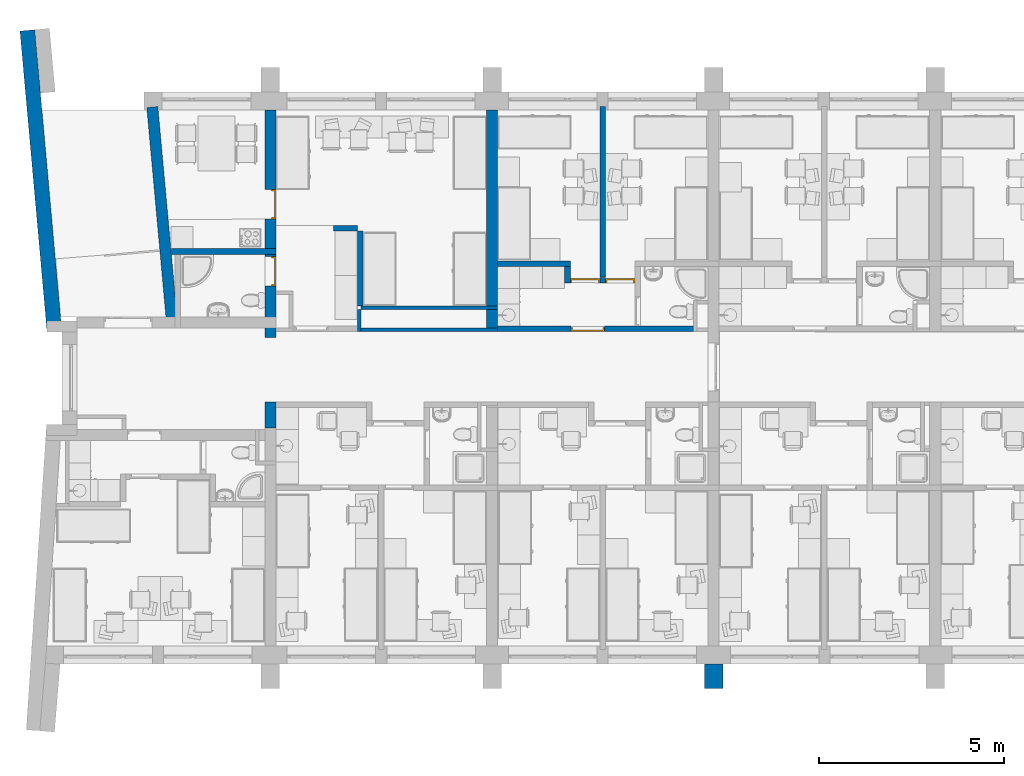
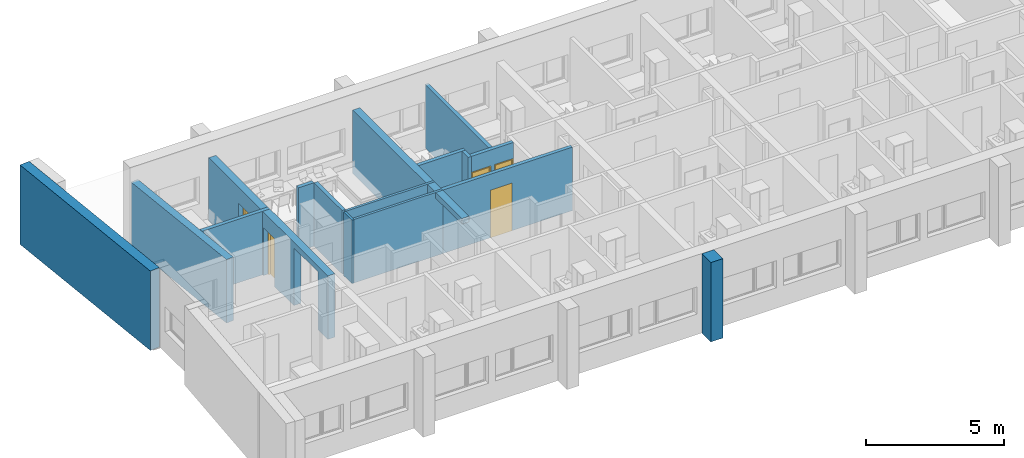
# One storey, part 5 of 152: 17 walls, 5 doors, 7 openings.
"""IFC2X3 building model written with IfcOpenShell, lengths in millimetres."""

from ifc_helpers import new_model, entity, si_unit, converted_unit, money_unit, direction, frame, origin_with_axes, place, context, subcontext, project, spatial, polyline, outline, extrude, faceted_brep, source, transform, mapped, material, material_list, layer, layer_set, layer_usage, type_object, element, fill, save


model = new_model("IFC2X3")

# Units and contexts
model_context = context("Model", 3, precision=1e-05, world=origin_with_axes(), true_north=direction((0.0, 1.0)))
body_context = subcontext(model_context, "Body", "Model", "MODEL_VIEW")
ifc_project = project(units=[si_unit("LENGTHUNIT", "METRE", prefix="MILLI"), si_unit("AREAUNIT", "SQUARE_METRE"), si_unit("VOLUMEUNIT", "CUBIC_METRE"), converted_unit("PLANEANGLEUNIT", "DEGREE", entity("IfcPlaneAngleMeasure", 0.0174532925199), si_unit("PLANEANGLEUNIT", "RADIAN"), dimensions=[0, 0, 0, 0, 0, 0, 0]), si_unit("SOLIDANGLEUNIT", "STERADIAN"), money_unit("USD"), converted_unit("TIMEUNIT", "Year", entity("IfcTimeMeasure", 31556926.0), si_unit("TIMEUNIT", "SECOND"), dimensions=[0, 0, 0, 0, 0, 0, 0]), si_unit("MASSUNIT", "GRAM"), si_unit("THERMODYNAMICTEMPERATUREUNIT", "DEGREE_CELSIUS"), si_unit("LUMINOUSINTENSITYUNIT", "LUMEN")], contexts=[model_context])

# Site, building, storey
site_placement = place(None, origin_with_axes())
site = spatial("IfcSite", under=ifc_project, at=site_placement, Name="Site", CompositionType="ELEMENT")
building_placement = place(site_placement, origin_with_axes())
building = spatial("IfcBuilding", under=site, at=building_placement, Name="Building", CompositionType="ELEMENT")
storey_placement = place(building_placement, frame((0.0, 0.0, 9500.0), z_axis=(0.0, 0.0, 1.0), x_axis=(1.0, 0.0, 0.0)))
storey = spatial("IfcBuildingStorey", under=building, at=storey_placement, Name="5KORRUS", CompositionType="ELEMENT", Elevation=9500.0)

# Walls
ifc_material_1 = material(Name="Olemasolevad seinad tellis, uus viimistlus")
ifc_layer_1 = layer(ifc_material_1, 400.0, ventilated="UNKNOWN")
ifc_layer_set_1 = layer_set([ifc_layer_1], Name="Olemasolevad seinad tellis, uus viimistlus 400")
ifc_layer_usage_1 = layer_usage(ifc_layer_set_1, "AXIS2", "POSITIVE", -400.0)
wall_type_1 = type_object("IfcWallType", Name="Olemasolevad seinad tellis, uus viimistlus 400", PredefinedType="NOTDEFINED")
wall_1_placement = place(storey_placement, frame((-54187.7234453, -11140.7868098, 0.0), z_axis=(0.0, 0.0, 1.0), x_axis=(-0.0895981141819, 0.995978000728, 0.0)))
element("IfcWallStandardCase", 1, at=wall_1_placement, inside=storey, type_object=wall_type_1, material=ifc_layer_usage_1, Name="VS1", ObjectType="VS1", context=body_context, shape_type="SweptSolid", body=[
    extrude(outline(polyline([(0.0, -400.0), (8177.32831985, -400.0), (8177.32831985, 0.0), (0.0, 0.0), (0.0, -400.0)])), origin_with_axes(), (0.0, 0.0, 1.0), 3500.0),
])
ifc_layer_2 = layer(ifc_material_1, 500.0, ventilated="UNKNOWN")
ifc_layer_set_2 = layer_set([ifc_layer_2], Name="Olemasolevad seinad tellis, uus viimistlus 500")
ifc_layer_usage_2 = layer_usage(ifc_layer_set_2, "AXIS2", "POSITIVE", -100.0)
wall_type_2 = type_object("IfcWallType", Name="Olemasolevad seinad tellis, uus viimistlus 500", PredefinedType="NOTDEFINED")
wall_2_placement = place(storey_placement, frame((-35990.2967033, -20796.6419407, 0.0), z_axis=(0.0, 0.0, 1.0), x_axis=(0.0, 1.0, 0.0)))
element("IfcWallStandardCase", 2, at=wall_2_placement, inside=storey, type_object=wall_type_2, material=ifc_layer_usage_2, Name="VS1", ObjectType="VS1", context=body_context, shape_type="SweptSolid", body=[
    extrude(outline(polyline([(0.0, -100.0), (657.402041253, -100.0), (657.402041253, 400.0), (0.0, 400.0), (0.0, -100.0)])), origin_with_axes(), (0.0, 0.0, 1.0), 3500.0),
])
ifc_material_2 = material(Name="UmbKipsplaat")
ifc_layer_3 = layer(ifc_material_2, 13.0, ventilated="UNKNOWN")
ifc_layer_4 = layer(ifc_material_2, 13.0, ventilated="UNKNOWN")
ifc_material_3 = material(Name="SOOJUSTUS MINERAALVILL")
ifc_layer_5 = layer(ifc_material_3, 98.0, ventilated="UNKNOWN")
ifc_layer_6 = layer(ifc_material_2, 13.0, ventilated="UNKNOWN")
ifc_layer_7 = layer(ifc_material_2, 13.0, ventilated="UNKNOWN")
ifc_layer_set_3 = layer_set([ifc_layer_3, ifc_layer_4, ifc_layer_5, ifc_layer_6, ifc_layer_7], Name="kipssein150")
ifc_layer_usage_3 = layer_usage(ifc_layer_set_3, "AXIS2", "POSITIVE", 0.0)
wall_type_3 = type_object("IfcWallType", Name="kipssein150 150", PredefinedType="NOTDEFINED")
wall_3_placement = place(storey_placement, frame((-50822.8272619, -9039.27319796, 0.0), z_axis=(0.0, 0.0, 1.0), x_axis=(1.0, 0.0, 0.0)))
element("IfcWallStandardCase", 3, at=wall_3_placement, inside=storey, type_object=wall_type_3, material=ifc_layer_usage_3, Name="SS1", ObjectType="SS1", context=body_context, shape_type="SweptSolid", body=[
    extrude(outline(polyline([(0.0, 0.0), (2832.53055858, 0.0), (2832.53055858, 150.0), (0.0, 150.0), (0.0, 0.0)])), origin_with_axes(), (0.0, 0.0, 1.0), 2800.0),
])

# Wall, opening, door
ifc_layer_usage_4 = layer_usage(ifc_layer_set_3, "AXIS2", "POSITIVE", 0.0)
wall_4_placement = place(storey_placement, frame((-41990.2967033, -11136.6041088, 0.0), z_axis=(0.0, 0.0, 1.0), x_axis=(1.0, 0.0, 0.0)))
wall_4 = element("IfcWallStandardCase", 4, at=wall_4_placement, inside=storey, type_object=wall_type_3, material=ifc_layer_usage_4, Name="SS1", ObjectType="SS1", context=body_context, shape_type="SweptSolid", body=[
    extrude(outline(polyline([(0.0, 0.0), (5400.28839536, 0.0), (5400.28839536, 150.0), (0.0, 150.0), (0.0, 0.0)])), origin_with_axes(), (0.0, 0.0, 1.0), 2800.0),
])
opening_1_placement = place(wall_4_placement, frame((2443.26478505, 0.0, 0.0), z_axis=(0.0, 0.0, 1.0), x_axis=(1.0, 0.0, 0.0)))
opening_1 = element("IfcOpeningElement", 5, at=opening_1_placement, cuts=wall_4, Name="SU2-6", context=body_context, shape_type="SweptSolid", body=[
    extrude(outline(polyline([(-450.0, -2100.0), (450.0, -2100.0), (450.0, 0.0), (-450.0, 0.0), (-450.0, -2100.0)])), frame((0.0, 150.0, 0.0), z_axis=(0.0, 1.0, 0.0), x_axis=(1.0, 0.0, 0.0)), (0.0, 0.0, -1.0), 450.0),
])
ifc_material_4 = material(Name="Background")
ifc_material_list = material_list([ifc_material_4])
door_style_1 = type_object("IfcDoorStyle", Name="Door 19", ConstructionType="NOTDEFINED", OperationType="SINGLE_SWING_LEFT", ParameterTakesPrecedence=False, Sizeable=False)
shared_shape_1 = source(origin_with_axes(), body_context, "Body", "Brep", [
    faceted_brep([(410.0, -40.0, 0.0), (410.0, -115.0, 0.0), (410.0, -115.0, 2060.0), (410.0, -40.0, 2060.0), (422.0, -40.0, 0.0), (422.0, 0.0, 0.0), (450.0, 0.0, 0.0), (450.0, -115.0, 0.0), (450.0, -115.0, 2060.0), (422.0, -40.0, 2060.0), (450.0, 0.0, 2060.0), (422.0, 0.0, 2060.0)], [[[0, 1, 2, 3]], [[4, 5, 6, 7, 1, 0]], [[2, 1, 7, 8]], [[9, 3, 2, 8, 10, 11]], [[9, 4, 0, 3]], [[11, 5, 4, 9]], [[11, 10, 6, 5]], [[7, 6, 10, 8]]]),
    faceted_brep([(-422.0, -40.0, 2060.0), (-422.0, 0.0, 2060.0), (-450.0, 0.0, 2060.0), (-450.0, -115.0, 2060.0), (-410.0, -115.0, 2060.0), (-410.0, -40.0, 2060.0), (-422.0, -40.0, 0.0), (-422.0, 0.0, 0.0), (-450.0, 0.0, 0.0), (-450.0, -115.0, 0.0), (-410.0, -115.0, 0.0), (-410.0, -40.0, 0.0)], [[[0, 1, 2, 3, 4, 5]], [[0, 6, 7, 1]], [[7, 8, 2, 1]], [[3, 2, 8, 9]], [[4, 3, 9, 10]], [[5, 4, 10, 11]], [[5, 11, 6, 0]], [[6, 11, 10, 9, 8, 7]]]),
    faceted_brep([(422.0, 0.0, 2072.0), (-422.0, 0.0, 2072.0), (-422.0, 0.0, 2060.0), (-450.0, 0.0, 2060.0), (-450.0, 0.0, 2100.0), (450.0, 0.0, 2100.0), (450.0, 0.0, 2060.0), (422.0, 0.0, 2060.0), (422.0, -40.0, 2072.0), (-422.0, -40.0, 2072.0), (-422.0, -40.0, 2060.0), (-410.0, -40.0, 2060.0), (-410.0, -115.0, 2060.0), (-450.0, -115.0, 2060.0), (-450.0, -115.0, 2100.0), (450.0, -115.0, 2100.0), (450.0, -115.0, 2060.0), (422.0, -40.0, 2060.0), (410.0, -115.0, 2060.0), (410.0, -40.0, 2060.0)], [[[0, 1, 2, 3, 4, 5, 6, 7]], [[0, 8, 9, 1]], [[1, 9, 10, 2]], [[10, 11, 12, 13, 3, 2]], [[14, 4, 3, 13]], [[15, 5, 4, 14]], [[16, 6, 5, 15]], [[17, 7, 6, 16, 18, 19]], [[7, 17, 8, 0]], [[10, 9, 8, 17, 19, 11]], [[19, 18, 12, 11]], [[13, 12, 18, 16, 15, 14]]]),
    faceted_brep([(-422.0, 0.0, 0.0), (422.0, 0.0, 0.0), (422.0, -40.0, 0.0), (-422.0, -40.0, 0.0), (-422.0, 0.0, 2072.0), (422.0, 0.0, 2072.0), (422.0, -40.0, 2072.0), (-422.0, -40.0, 2072.0)], [[[0, 1, 2, 3]], [[0, 4, 5, 1]], [[1, 5, 6, 2]], [[3, 2, 6, 7]], [[4, 0, 3, 7]], [[5, 4, 7, 6]]]),
])
door_1_placement = place(opening_1_placement, frame((450.0, 0.0, 0.0), z_axis=(0.0, 0.0, 1.0), x_axis=(-1.0, 0.0, 0.0)))
door_1 = element("IfcDoor", 6, at=door_1_placement, inside=storey, type_object=door_style_1, material=ifc_material_list, Name="SU2-6", ObjectType="Korteri välisuks", OverallHeight=2100.0, OverallWidth=900.0, context=body_context, shape_type="MappedRepresentation", body=[
    mapped(shared_shape_1, transform((450.0, 0.0, 0.0))),
])
fill(opening_1, door_1)

# Wall
ifc_layer_usage_5 = layer_usage(ifc_layer_set_3, "AXIS2", "POSITIVE", -150.0)
wall_5_placement = place(storey_placement, frame((-40022.0319183, -9366.37850445, 0.0), z_axis=(0.0, 0.0, 1.0), x_axis=(0.0, -1.0, 0.0)))
element("IfcWallStandardCase", 7, at=wall_5_placement, inside=storey, type_object=wall_type_3, material=ifc_layer_usage_5, Name="SS1", ObjectType="SS1", context=body_context, shape_type="SweptSolid", body=[
    extrude(outline(polyline([(0.0, -150.0), (449.515634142, -150.0), (449.515634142, 0.0), (0.0, 0.0), (0.0, -150.0)])), origin_with_axes(), (0.0, 0.0, 1.0), 2800.0),
])

# Wall, openings, doors
ifc_layer_usage_6 = layer_usage(ifc_layer_set_3, "AXIS2", "POSITIVE", 0.0)
wall_6_placement = place(storey_placement, frame((-40022.0319183, -9815.89413859, 0.0), z_axis=(0.0, 0.0, 1.0), x_axis=(1.0, 0.0, 0.0)))
wall_6 = element("IfcWallStandardCase", 8, at=wall_6_placement, inside=storey, type_object=wall_type_3, material=ifc_layer_usage_6, Name="SS1", ObjectType="SS1", context=body_context, shape_type="SweptSolid", body=[
    extrude(outline(polyline([(0.0, 0.0), (1750.44681959, 0.0), (1750.44681959, 150.0), (0.0, 150.0), (0.0, 0.0)])), origin_with_axes(), (0.0, 0.0, 1.0), 2800.0),
])
opening_2_placement = place(wall_6_placement, frame((1350.45577623, 0.0, 0.0), z_axis=(0.0, 0.0, 1.0), x_axis=(1.0, 0.0, 0.0)))
opening_2 = element("IfcOpeningElement", 9, at=opening_2_placement, cuts=wall_6, Name="SU3-5", context=body_context, shape_type="SweptSolid", body=[
    extrude(outline(polyline([(-400.0, 0.0), (400.0, 0.0), (400.0, 2100.0), (-400.0, 2100.0), (-400.0, 0.0)])), frame((0.0, 150.0, 0.0), z_axis=(0.0, 1.0, 0.0), x_axis=(-1.0, 0.0, 0.0)), (0.0, 0.0, -1.0), 450.0),
])
opening_3_placement = place(wall_6_placement, frame((400.0, 0.0, 0.0), z_axis=(0.0, 0.0, 1.0), x_axis=(1.0, 0.0, 0.0)))
opening_3 = element("IfcOpeningElement", 10, at=opening_3_placement, cuts=wall_6, Name="SU3-4", context=body_context, shape_type="SweptSolid", body=[
    extrude(outline(polyline([(-400.0, 0.0), (400.0, 0.0), (400.0, 2100.0), (-400.0, 2100.0), (-400.0, 0.0)])), frame((0.0, 150.0, 0.0), z_axis=(0.0, -1.0, 0.0), x_axis=(1.0, 0.0, 0.0)), (0.0, 0.0, 1.0), 450.0),
])
door_style_2 = type_object("IfcDoorStyle", Name="Door 19", ConstructionType="NOTDEFINED", OperationType="SINGLE_SWING_LEFT", ParameterTakesPrecedence=False, Sizeable=False)
shared_shape_2 = source(origin_with_axes(), body_context, "Body", "Brep", [
    faceted_brep([(360.0, -75.0, 0.0), (360.0, -150.0, 0.0), (360.0, -150.0, 2060.0), (360.0, -75.0, 2060.0), (372.0, -75.0, 0.0), (372.0, -35.0, 0.0), (400.0, -35.0, 0.0), (400.0, -150.0, 0.0), (400.0, -150.0, 2060.0), (372.0, -75.0, 2060.0), (400.0, -35.0, 2060.0), (372.0, -35.0, 2060.0)], [[[0, 1, 2, 3]], [[4, 5, 6, 7, 1, 0]], [[2, 1, 7, 8]], [[9, 3, 2, 8, 10, 11]], [[9, 4, 0, 3]], [[11, 5, 4, 9]], [[11, 10, 6, 5]], [[7, 6, 10, 8]]]),
    faceted_brep([(-372.0, -75.0, 2060.0), (-372.0, -35.0, 2060.0), (-400.0, -35.0, 2060.0), (-400.0, -150.0, 2060.0), (-360.0, -150.0, 2060.0), (-360.0, -75.0, 2060.0), (-372.0, -75.0, 0.0), (-372.0, -35.0, 0.0), (-400.0, -35.0, 0.0), (-400.0, -150.0, 0.0), (-360.0, -150.0, 0.0), (-360.0, -75.0, 0.0)], [[[0, 1, 2, 3, 4, 5]], [[0, 6, 7, 1]], [[7, 8, 2, 1]], [[3, 2, 8, 9]], [[4, 3, 9, 10]], [[5, 4, 10, 11]], [[5, 11, 6, 0]], [[6, 11, 10, 9, 8, 7]]]),
    faceted_brep([(372.0, -35.0, 2072.0), (-372.0, -35.0, 2072.0), (-372.0, -35.0, 2060.0), (-400.0, -35.0, 2060.0), (-400.0, -35.0, 2100.0), (400.0, -35.0, 2100.0), (400.0, -35.0, 2060.0), (372.0, -35.0, 2060.0), (372.0, -75.0, 2072.0), (-372.0, -75.0, 2072.0), (-372.0, -75.0, 2060.0), (-360.0, -75.0, 2060.0), (-360.0, -150.0, 2060.0), (-400.0, -150.0, 2060.0), (-400.0, -150.0, 2100.0), (400.0, -150.0, 2100.0), (400.0, -150.0, 2060.0), (372.0, -75.0, 2060.0), (360.0, -150.0, 2060.0), (360.0, -75.0, 2060.0)], [[[0, 1, 2, 3, 4, 5, 6, 7]], [[0, 8, 9, 1]], [[1, 9, 10, 2]], [[10, 11, 12, 13, 3, 2]], [[14, 4, 3, 13]], [[15, 5, 4, 14]], [[16, 6, 5, 15]], [[17, 7, 6, 16, 18, 19]], [[7, 17, 8, 0]], [[10, 9, 8, 17, 19, 11]], [[19, 18, 12, 11]], [[13, 12, 18, 16, 15, 14]]]),
    faceted_brep([(-372.0, -35.0, 0.0), (372.0, -35.0, 0.0), (372.0, -75.0, 0.0), (-372.0, -75.0, 0.0), (-372.0, -35.0, 2072.0), (372.0, -35.0, 2072.0), (372.0, -75.0, 2072.0), (-372.0, -75.0, 2072.0)], [[[0, 1, 2, 3]], [[0, 4, 5, 1]], [[1, 5, 6, 2]], [[3, 2, 6, 7]], [[4, 0, 3, 7]], [[5, 4, 7, 6]]]),
])
door_2_placement = place(opening_2_placement, frame((-400.0, 0.0, 0.0), z_axis=(0.0, 0.0, 1.0), x_axis=(1.0, 0.0, 0.0)))
door_2 = element("IfcDoor", 11, at=door_2_placement, inside=storey, type_object=door_style_2, material=ifc_material_list, Name="SU3-5", ObjectType="Toa uks", OverallHeight=2100.0, OverallWidth=800.0, context=body_context, shape_type="MappedRepresentation", body=[
    mapped(shared_shape_2, transform((400.0, 150.0, 0.0))),
])
fill(opening_2, door_2)
door_style_3 = type_object("IfcDoorStyle", Name="Door 19", ConstructionType="NOTDEFINED", OperationType="SINGLE_SWING_RIGHT", ParameterTakesPrecedence=False, Sizeable=False)
shared_shape_3 = source(origin_with_axes(), body_context, "Body", "Brep", [
    faceted_brep([(-360.0, -75.0, 0.0), (-360.0, -75.0, 2060.0), (-360.0, -150.0, 2060.0), (-360.0, -150.0, 0.0), (-372.0, -75.0, 2060.0), (-372.0, -75.0, 0.0), (-372.0, -35.0, 2060.0), (-400.0, -35.0, 2060.0), (-400.0, -150.0, 2060.0), (-400.0, -150.0, 0.0), (-400.0, -35.0, 0.0), (-372.0, -35.0, 0.0)], [[[0, 1, 2, 3]], [[4, 1, 0, 5]], [[4, 6, 7, 8, 2, 1]], [[2, 8, 9, 3]], [[5, 0, 3, 9, 10, 11]], [[6, 4, 5, 11]], [[6, 11, 10, 7]], [[9, 8, 7, 10]]]),
    faceted_brep([(372.0, -75.0, 2060.0), (360.0, -75.0, 2060.0), (360.0, -150.0, 2060.0), (400.0, -150.0, 2060.0), (400.0, -35.0, 2060.0), (372.0, -35.0, 2060.0), (372.0, -75.0, 0.0), (360.0, -75.0, 0.0), (360.0, -150.0, 0.0), (400.0, -150.0, 0.0), (400.0, -35.0, 0.0), (372.0, -35.0, 0.0)], [[[0, 1, 2, 3, 4, 5]], [[1, 0, 6, 7]], [[1, 7, 8, 2]], [[2, 8, 9, 3]], [[3, 9, 10, 4]], [[11, 5, 4, 10]], [[0, 5, 11, 6]], [[6, 11, 10, 9, 8, 7]]]),
    faceted_brep([(-372.0, -35.0, 2072.0), (-372.0, -35.0, 2060.0), (-400.0, -35.0, 2060.0), (-400.0, -35.0, 2100.0), (400.0, -35.0, 2100.0), (400.0, -35.0, 2060.0), (372.0, -35.0, 2060.0), (372.0, -35.0, 2072.0), (-372.0, -75.0, 2072.0), (-372.0, -75.0, 2060.0), (-360.0, -75.0, 2060.0), (-360.0, -150.0, 2060.0), (-400.0, -150.0, 2060.0), (-400.0, -150.0, 2100.0), (400.0, -150.0, 2100.0), (400.0, -150.0, 2060.0), (372.0, -75.0, 2060.0), (360.0, -150.0, 2060.0), (360.0, -75.0, 2060.0), (372.0, -75.0, 2072.0)], [[[0, 1, 2, 3, 4, 5, 6, 7]], [[1, 0, 8, 9]], [[9, 10, 11, 12, 2, 1]], [[12, 13, 3, 2]], [[13, 14, 4, 3]], [[14, 15, 5, 4]], [[16, 6, 5, 15, 17, 18]], [[7, 6, 16, 19]], [[0, 7, 19, 8]], [[16, 18, 10, 9, 8, 19]], [[10, 18, 17, 11]], [[15, 14, 13, 12, 11, 17]]]),
    faceted_brep([(372.0, -35.0, 0.0), (372.0, -75.0, 0.0), (-372.0, -75.0, 0.0), (-372.0, -35.0, 0.0), (372.0, -35.0, 2072.0), (372.0, -75.0, 2072.0), (-372.0, -75.0, 2072.0), (-372.0, -35.0, 2072.0)], [[[0, 1, 2, 3]], [[4, 5, 1, 0]], [[1, 5, 6, 2]], [[3, 2, 6, 7]], [[0, 3, 7, 4]], [[7, 6, 5, 4]]]),
])
door_3_placement = place(opening_3_placement, frame((-400.0, 0.0, 0.0), z_axis=(0.0, 0.0, 1.0), x_axis=(1.0, 0.0, 0.0)))
door_3 = element("IfcDoor", 12, at=door_3_placement, inside=storey, type_object=door_style_3, material=ifc_material_list, Name="SU3-4", ObjectType="Toa uks", OverallHeight=2100.0, OverallWidth=800.0, context=body_context, shape_type="MappedRepresentation", body=[
    mapped(shared_shape_3, transform((400.0, 150.0, 0.0))),
])
fill(opening_3, door_3)

# Walls
ifc_layer_usage_7 = layer_usage(ifc_layer_set_3, "AXIS2", "POSITIVE", 0.0)
wall_7_placement = place(storey_placement, frame((-45784.1327748, -8409.87086674, 0.0), z_axis=(0.0, 0.0, 1.0), x_axis=(0.0, -1.0, 0.0)))
element("IfcWallStandardCase", 13, at=wall_7_placement, inside=storey, type_object=wall_type_3, material=ifc_layer_usage_7, Name="SS1", ObjectType="SS1", context=body_context, shape_type="SweptSolid", body=[
    extrude(outline(polyline([(0.0, 0.0), (2026.91357851, 0.0), (2026.91357851, 150.0), (0.0, 150.0), (0.0, 0.0)])), origin_with_axes(), (0.0, 0.0, 1.0), 2800.0),
])
ifc_layer_usage_8 = layer_usage(ifc_layer_set_3, "AXIS2", "POSITIVE", 0.0)
wall_8_placement = place(storey_placement, frame((-46433.9824806, -8409.87086674, 0.0), z_axis=(0.0, 0.0, 1.0), x_axis=(1.0, 0.0, 0.0)))
element("IfcWallStandardCase", 14, at=wall_8_placement, inside=storey, type_object=wall_type_3, material=ifc_layer_usage_8, Name="SS1", ObjectType="SS1", context=body_context, shape_type="SweptSolid", body=[
    extrude(outline(polyline([(0.0, 0.0), (649.849705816, 0.0), (649.849705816, 150.0), (0.0, 150.0), (0.0, 0.0)])), origin_with_axes(), (0.0, 0.0, 1.0), 2800.0),
])
ifc_layer_usage_9 = layer_usage(ifc_layer_set_3, "AXIS2", "POSITIVE", -150.0)
wall_9_placement = place(storey_placement, frame((-40022.0319183, -9366.37850445, 0.0), z_axis=(0.0, 0.0, 1.0), x_axis=(-1.0, 0.0, 0.0)))
element("IfcWallStandardCase", 15, at=wall_9_placement, inside=storey, type_object=wall_type_3, material=ifc_layer_usage_9, Name="SS1", ObjectType="SS1", context=body_context, shape_type="SweptSolid", body=[
    extrude(outline(polyline([(0.0, -150.0), (1968.26478505, -150.0), (1968.26478505, 0.0), (0.0, 0.0), (0.0, -150.0)])), origin_with_axes(), (0.0, 0.0, 1.0), 2800.0),
])
ifc_layer_usage_10 = layer_usage(ifc_layer_set_3, "AXIS2", "POSITIVE", 0.0)
wall_10_placement = place(storey_placement, frame((-39222.0319183, -5039.6041088, 0.0), z_axis=(0.0, 0.0, 1.0), x_axis=(0.0, -1.0, 0.0)))
element("IfcWallStandardCase", 16, at=wall_10_placement, inside=storey, type_object=wall_type_3, material=ifc_layer_usage_10, Name="SS1", ObjectType="SS1", context=body_context, shape_type="SweptSolid", body=[
    extrude(outline(polyline([(0.0, 0.0), (4617.29002979, 0.0), (4617.29002979, 150.0), (0.0, 150.0), (0.0, 0.0)])), origin_with_axes(), (0.0, 0.0, 1.0), 2800.0),
])

# Wall, opening
ifc_material_5 = material(Name="Olemasolevad seinad tellis, uus viimistlus")
ifc_layer_8 = layer(ifc_material_5, 300.0, ventilated="UNKNOWN")
ifc_layer_set_4 = layer_set([ifc_layer_8], Name="Olemasolevad seinad tellis, uus viimistlus  300")
ifc_layer_usage_11 = layer_usage(ifc_layer_set_4, "AXIS2", "POSITIVE", 0.0)
wall_type_4 = type_object("IfcWallType", Name="Olemasolevad seinad tellis, uus viimistlus  300", PredefinedType="NOTDEFINED")
wall_11_placement = place(storey_placement, frame((-41990.2967033, -13039.3705726, 0.0), z_axis=(0.0, 0.0, 1.0), x_axis=(0.0, 1.0, 0.0)))
wall_11 = element("IfcWallStandardCase", 17, at=wall_11_placement, inside=storey, type_object=wall_type_4, material=ifc_layer_usage_11, Name="KS1", ObjectType="KS1", context=body_context, shape_type="SweptSolid", body=[
    extrude(outline(polyline([(0.0, 0.0), (7899.7664638, 0.0), (7899.7664638, 300.0), (0.0, 300.0), (0.0, 0.0)])), origin_with_axes(), (0.0, 0.0, 1.0), 2800.0),
])
opening_4_placement = place(wall_11_placement, frame((943.048909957, 0.0, 0.0), z_axis=(0.0, 0.0, 1.0), x_axis=(1.0, 0.0, 0.0)))
element("IfcOpeningElement", 18, at=opening_4_placement, cuts=wall_11, Name="DOO - 001", context=body_context, shape_type="SweptSolid", body=[
    extrude(outline(polyline([(-959.718, 2550.0), (-959.718, 0.0), (959.718, 0.0), (959.718, 2550.0), (-959.718, 2550.0)])), frame((0.0, 0.0, 0.0), z_axis=(0.0, -1.0, 0.0), x_axis=(1.0, 0.0, 0.0)), (0.0, 0.0, 1.0), 300.0),
    extrude(outline(polyline([(-959.718, 0.0), (-959.718, -2550.0), (959.718, -2550.0), (959.718, 0.0), (-959.718, 0.0)])), frame((0.0, 0.0, 0.0), z_axis=(0.0, 1.0, 0.0), x_axis=(1.0, 0.0, 0.0)), (0.0, 0.0, 1.0), 300.0),
])

# Wall
ifc_layer_usage_12 = layer_usage(ifc_layer_set_4, "AXIS2", "POSITIVE", -300.0)
wall_12_placement = place(storey_placement, frame((-51188.5055148, -5039.6041088, 0.0), z_axis=(0.0, 0.0, 1.0), x_axis=(0.0910473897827, -0.995846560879, 0.0)))
element("IfcWallStandardCase", 19, at=wall_12_placement, inside=storey, type_object=wall_type_4, material=ifc_layer_usage_12, Name="KS1", ObjectType="KS1", context=body_context, shape_type="SweptSolid", body=[
    extrude(outline(polyline([(0.0, -300.0), (5982.8981657, -300.0), (5982.8981657, 0.0), (0.0, 0.0), (0.0, -300.0)])), origin_with_axes(), (0.0, 0.0, 1.0), 2800.0),
])

# Wall, openings, doors
ifc_layer_usage_13 = layer_usage(ifc_layer_set_4, "AXIS2", "POSITIVE", 0.0)
wall_13_placement = place(storey_placement, frame((-47990.2967033, -13739.2398994, 0.0), z_axis=(0.0, 0.0, 1.0), x_axis=(0.0, 1.0, 0.0)))
wall_13 = element("IfcWallStandardCase", 20, at=wall_13_placement, inside=storey, type_object=wall_type_4, material=ifc_layer_usage_13, Name="KS1", ObjectType="KS1", context=body_context, shape_type="SweptSolid", body=[
    extrude(outline(polyline([(0.0, 0.0), (8599.63579061, 0.0), (8599.63579061, 300.0), (0.0, 300.0), (0.0, 0.0)])), origin_with_axes(), (0.0, 0.0, 1.0), 2800.0),
])
opening_5_placement = place(wall_13_placement, frame((1576.13579061, 0.0, 0.0), z_axis=(0.0, 0.0, 1.0), x_axis=(1.0, 0.0, 0.0)))
element("IfcOpeningElement", 21, at=opening_5_placement, cuts=wall_13, Name="DOO - 001", context=body_context, shape_type="SweptSolid", body=[
    extrude(outline(polyline([(-876.5, 0.0), (-876.5, -2550.0), (876.5, -2550.0), (876.5, 0.0), (-876.5, 0.0)])), frame((0.0, 300.0, 0.0), z_axis=(0.0, 1.0, 0.0), x_axis=(1.0, 0.0, 0.0)), (0.0, 0.0, 1.0), 300.0),
    extrude(outline(polyline([(-876.5, 2550.0), (-876.5, 0.0), (876.5, 0.0), (876.5, 2550.0), (-876.5, 2550.0)])), frame((0.0, 300.0, 0.0), z_axis=(0.0, -1.0, 0.0), x_axis=(1.0, 0.0, 0.0)), (0.0, 0.0, 1.0), 300.0),
])
opening_6_placement = place(wall_13_placement, frame((4239.50270273, 0.0, 0.0), z_axis=(0.0, 0.0, 1.0), x_axis=(1.0, 0.0, 0.0)))
opening_6 = element("IfcOpeningElement", 22, at=opening_6_placement, cuts=wall_13, Name="SU3-3", context=body_context, shape_type="SweptSolid", body=[
    extrude(outline(polyline([(-400.0, -2100.0), (400.0, -2100.0), (400.0, 0.0), (-400.0, 0.0), (-400.0, -2100.0)])), frame((0.0, 300.0, 0.0), z_axis=(0.0, 1.0, 0.0), x_axis=(1.0, 0.0, 0.0)), (0.0, 0.0, -1.0), 900.0),
])
opening_7_placement = place(wall_13_placement, frame((6049.36903267, 0.0, 0.0), z_axis=(0.0, 0.0, 1.0), x_axis=(1.0, 0.0, 0.0)))
opening_7 = element("IfcOpeningElement", 23, at=opening_7_placement, cuts=wall_13, Name="SU3-4", context=body_context, shape_type="SweptSolid", body=[
    extrude(outline(polyline([(-400.0, -2100.0), (400.0, -2100.0), (400.0, 0.0), (-400.0, 0.0), (-400.0, -2100.0)])), frame((0.0, 300.0, 0.0), z_axis=(0.0, -1.0, 0.0), x_axis=(-1.0, 0.0, 0.0)), (0.0, 0.0, 1.0), 900.0),
])
shared_shape_4 = source(origin_with_axes(), body_context, "Body", "Brep", [
    faceted_brep([(360.0, -40.0, 0.0), (360.0, -115.0, 0.0), (360.0, -115.0, 2060.0), (360.0, -40.0, 2060.0), (372.0, -40.0, 0.0), (372.0, 0.0, 0.0), (400.0, 0.0, 0.0), (400.0, -115.0, 0.0), (400.0, -115.0, 2060.0), (372.0, -40.0, 2060.0), (400.0, 0.0, 2060.0), (372.0, 0.0, 2060.0)], [[[0, 1, 2, 3]], [[4, 5, 6, 7, 1, 0]], [[2, 1, 7, 8]], [[9, 3, 2, 8, 10, 11]], [[9, 4, 0, 3]], [[11, 5, 4, 9]], [[11, 10, 6, 5]], [[7, 6, 10, 8]]]),
    faceted_brep([(-372.0, -40.0, 2060.0), (-372.0, 0.0, 2060.0), (-400.0, 0.0, 2060.0), (-400.0, -115.0, 2060.0), (-360.0, -115.0, 2060.0), (-360.0, -40.0, 2060.0), (-372.0, -40.0, 0.0), (-372.0, 0.0, 0.0), (-400.0, 0.0, 0.0), (-400.0, -115.0, 0.0), (-360.0, -115.0, 0.0), (-360.0, -40.0, 0.0)], [[[0, 1, 2, 3, 4, 5]], [[0, 6, 7, 1]], [[7, 8, 2, 1]], [[3, 2, 8, 9]], [[4, 3, 9, 10]], [[5, 4, 10, 11]], [[5, 11, 6, 0]], [[6, 11, 10, 9, 8, 7]]]),
    faceted_brep([(372.0, 0.0, 2072.0), (-372.0, 0.0, 2072.0), (-372.0, 0.0, 2060.0), (-400.0, 0.0, 2060.0), (-400.0, 0.0, 2100.0), (400.0, 0.0, 2100.0), (400.0, 0.0, 2060.0), (372.0, 0.0, 2060.0), (372.0, -40.0, 2072.0), (-372.0, -40.0, 2072.0), (-372.0, -40.0, 2060.0), (-360.0, -40.0, 2060.0), (-360.0, -115.0, 2060.0), (-400.0, -115.0, 2060.0), (-400.0, -115.0, 2100.0), (400.0, -115.0, 2100.0), (400.0, -115.0, 2060.0), (372.0, -40.0, 2060.0), (360.0, -115.0, 2060.0), (360.0, -40.0, 2060.0)], [[[0, 1, 2, 3, 4, 5, 6, 7]], [[0, 8, 9, 1]], [[1, 9, 10, 2]], [[10, 11, 12, 13, 3, 2]], [[14, 4, 3, 13]], [[15, 5, 4, 14]], [[16, 6, 5, 15]], [[17, 7, 6, 16, 18, 19]], [[7, 17, 8, 0]], [[10, 9, 8, 17, 19, 11]], [[19, 18, 12, 11]], [[13, 12, 18, 16, 15, 14]]]),
    faceted_brep([(-372.0, 0.0, 0.0), (372.0, 0.0, 0.0), (372.0, -40.0, 0.0), (-372.0, -40.0, 0.0), (-372.0, 0.0, 2072.0), (372.0, 0.0, 2072.0), (372.0, -40.0, 2072.0), (-372.0, -40.0, 2072.0)], [[[0, 1, 2, 3]], [[0, 4, 5, 1]], [[1, 5, 6, 2]], [[3, 2, 6, 7]], [[4, 0, 3, 7]], [[5, 4, 7, 6]]]),
])
door_4_placement = place(opening_6_placement, frame((400.0, 0.0, 0.0), z_axis=(0.0, 0.0, 1.0), x_axis=(-1.0, 0.0, 0.0)))
door_4 = element("IfcDoor", 24, at=door_4_placement, inside=storey, type_object=door_style_1, material=ifc_material_list, Name="SU3-3", ObjectType="WC-uks", OverallHeight=2100.0, OverallWidth=800.0, context=body_context, shape_type="MappedRepresentation", body=[
    mapped(shared_shape_4, transform((400.0, 0.0, 0.0))),
])
fill(opening_6, door_4)
door_style_4 = type_object("IfcDoorStyle", Name="Door 19", ConstructionType="NOTDEFINED", OperationType="SINGLE_SWING_RIGHT", ParameterTakesPrecedence=False, Sizeable=False)
shared_shape_5 = source(origin_with_axes(), body_context, "Body", "Brep", [
    faceted_brep([(-360.0, -40.0, 0.0), (-360.0, -40.0, 2060.0), (-360.0, -115.0, 2060.0), (-360.0, -115.0, 0.0), (-372.0, -40.0, 2060.0), (-372.0, -40.0, 0.0), (-372.0, 0.0, 2060.0), (-400.0, 0.0, 2060.0), (-400.0, -115.0, 2060.0), (-400.0, -115.0, 0.0), (-400.0, 0.0, 0.0), (-372.0, 0.0, 0.0)], [[[0, 1, 2, 3]], [[4, 1, 0, 5]], [[4, 6, 7, 8, 2, 1]], [[2, 8, 9, 3]], [[5, 0, 3, 9, 10, 11]], [[6, 4, 5, 11]], [[6, 11, 10, 7]], [[9, 8, 7, 10]]]),
    faceted_brep([(372.0, -40.0, 2060.0), (360.0, -40.0, 2060.0), (360.0, -115.0, 2060.0), (400.0, -115.0, 2060.0), (400.0, 0.0, 2060.0), (372.0, 0.0, 2060.0), (372.0, -40.0, 0.0), (360.0, -40.0, 0.0), (360.0, -115.0, 0.0), (400.0, -115.0, 0.0), (400.0, 0.0, 0.0), (372.0, 0.0, 0.0)], [[[0, 1, 2, 3, 4, 5]], [[1, 0, 6, 7]], [[1, 7, 8, 2]], [[2, 8, 9, 3]], [[3, 9, 10, 4]], [[11, 5, 4, 10]], [[0, 5, 11, 6]], [[6, 11, 10, 9, 8, 7]]]),
    faceted_brep([(-372.0, 0.0, 2072.0), (-372.0, 0.0, 2060.0), (-400.0, 0.0, 2060.0), (-400.0, 0.0, 2100.0), (400.0, 0.0, 2100.0), (400.0, 0.0, 2060.0), (372.0, 0.0, 2060.0), (372.0, 0.0, 2072.0), (-372.0, -40.0, 2072.0), (-372.0, -40.0, 2060.0), (-360.0, -40.0, 2060.0), (-360.0, -115.0, 2060.0), (-400.0, -115.0, 2060.0), (-400.0, -115.0, 2100.0), (400.0, -115.0, 2100.0), (400.0, -115.0, 2060.0), (372.0, -40.0, 2060.0), (360.0, -115.0, 2060.0), (360.0, -40.0, 2060.0), (372.0, -40.0, 2072.0)], [[[0, 1, 2, 3, 4, 5, 6, 7]], [[1, 0, 8, 9]], [[9, 10, 11, 12, 2, 1]], [[12, 13, 3, 2]], [[13, 14, 4, 3]], [[14, 15, 5, 4]], [[16, 6, 5, 15, 17, 18]], [[7, 6, 16, 19]], [[0, 7, 19, 8]], [[16, 18, 10, 9, 8, 19]], [[10, 18, 17, 11]], [[15, 14, 13, 12, 11, 17]]]),
    faceted_brep([(372.0, 0.0, 0.0), (372.0, -40.0, 0.0), (-372.0, -40.0, 0.0), (-372.0, 0.0, 0.0), (372.0, 0.0, 2072.0), (372.0, -40.0, 2072.0), (-372.0, -40.0, 2072.0), (-372.0, 0.0, 2072.0)], [[[0, 1, 2, 3]], [[4, 5, 1, 0]], [[1, 5, 6, 2]], [[3, 2, 6, 7]], [[0, 3, 7, 4]], [[7, 6, 5, 4]]]),
])
door_5_placement = place(opening_7_placement, frame((400.0, 0.0, 0.0), z_axis=(0.0, 0.0, 1.0), x_axis=(-1.0, 0.0, 0.0)))
door_5 = element("IfcDoor", 25, at=door_5_placement, inside=storey, type_object=door_style_4, material=ifc_material_list, Name="SU3-4", ObjectType="Toa uks", OverallHeight=2100.0, OverallWidth=800.0, context=body_context, shape_type="MappedRepresentation", body=[
    mapped(shared_shape_5, transform((400.0, 0.0, 0.0))),
])
fill(opening_7, door_5)

# Walls
ifc_material_6 = material(Name="krohv")
ifc_layer_9 = layer(ifc_material_6, 2.0, ventilated="UNKNOWN")
ifc_layer_10 = layer(ifc_material_6, 10.0, ventilated="UNKNOWN")
ifc_material_7 = material(Name="Kergplokk")
ifc_layer_11 = layer(ifc_material_7, 76.0, ventilated="UNKNOWN")
ifc_layer_12 = layer(ifc_material_6, 10.0, ventilated="UNKNOWN")
ifc_layer_13 = layer(ifc_material_6, 2.0, ventilated="UNKNOWN")
ifc_layer_set_5 = layer_set([ifc_layer_9, ifc_layer_10, ifc_layer_11, ifc_layer_12, ifc_layer_13], Name="Kergplokk Bauroc 100")
ifc_layer_usage_14 = layer_usage(ifc_layer_set_5, "AXIS2", "POSITIVE", 0.0)
wall_type_5 = type_object("IfcWallType", Name="Kergplokk Bauroc 100 100", PredefinedType="NOTDEFINED")
wall_14_placement = place(storey_placement, frame((-45685.1422211, -10539.9706832, 0.0), z_axis=(0.0, 0.0, 1.0), x_axis=(1.0, 0.0, 0.0)))
element("IfcWallStandardCase", 26, at=wall_14_placement, inside=storey, type_object=wall_type_5, material=ifc_layer_usage_14, Name="SS2", ObjectType="SS2", context=body_context, shape_type="SweptSolid", body=[
    extrude(outline(polyline([(0.0, 0.0), (3694.84551781, 0.0), (3694.84551781, 100.0), (0.0, 100.0), (0.0, 0.0)])), origin_with_axes(), (0.0, 0.0, 1.0), 2800.0),
])
ifc_layer_usage_15 = layer_usage(ifc_layer_set_5, "AXIS2", "POSITIVE", 0.0)
wall_15_placement = place(storey_placement, frame((-45685.1422211, -11136.6041088, 0.0), z_axis=(0.0, 0.0, 1.0), x_axis=(0.0, 1.0, 0.0)))
element("IfcWallStandardCase", 27, at=wall_15_placement, inside=storey, type_object=wall_type_5, material=ifc_layer_usage_15, Name="SS1", ObjectType="SS1", context=body_context, shape_type="SweptSolid", body=[
    extrude(outline(polyline([(0.0, 0.0), (596.633425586, 0.0), (596.633425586, 100.0), (0.0, 100.0), (0.0, 0.0)])), origin_with_axes(), (0.0, 0.0, 1.0), 2800.0),
])
ifc_layer_usage_16 = layer_usage(ifc_layer_set_5, "AXIS2", "POSITIVE", 0.0)
wall_16_placement = place(storey_placement, frame((-45685.1422211, -11136.6041088, 0.0), z_axis=(0.0, 0.0, 1.0), x_axis=(1.0, 0.0, 0.0)))
element("IfcWallStandardCase", 28, at=wall_16_placement, inside=storey, type_object=wall_type_5, material=ifc_layer_usage_16, Name="SS2", ObjectType="SS2", context=body_context, shape_type="SweptSolid", body=[
    extrude(outline(polyline([(0.0, 0.0), (3694.84551781, 0.0), (3694.84551781, 100.0), (0.0, 100.0), (0.0, 0.0)])), origin_with_axes(), (0.0, 0.0, 1.0), 2800.0),
])
ifc_layer_usage_17 = layer_usage(ifc_layer_set_5, "AXIS2", "POSITIVE", 0.0)
wall_17_placement = place(storey_placement, frame((-45685.1422211, -11136.6041088, 0.0), z_axis=(0.0, 0.0, 1.0), x_axis=(0.0, 1.0, 0.0)))
element("IfcWallStandardCase", 29, at=wall_17_placement, inside=storey, type_object=wall_type_5, material=ifc_layer_usage_17, Name="SS2", ObjectType="SS2", context=body_context, shape_type="SweptSolid", body=[
    extrude(outline(polyline([(0.0, 0.0), (596.633425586, 0.0), (596.633425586, 100.0), (0.0, 100.0), (0.0, 0.0)])), origin_with_axes(), (0.0, 0.0, 1.0), 2800.0),
])

save(model, "model.ifc")
